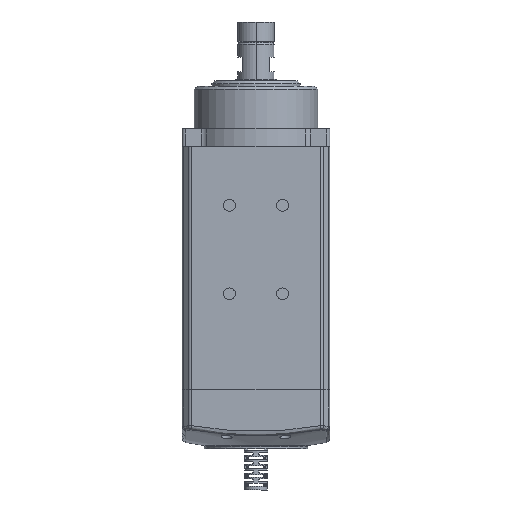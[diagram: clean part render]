
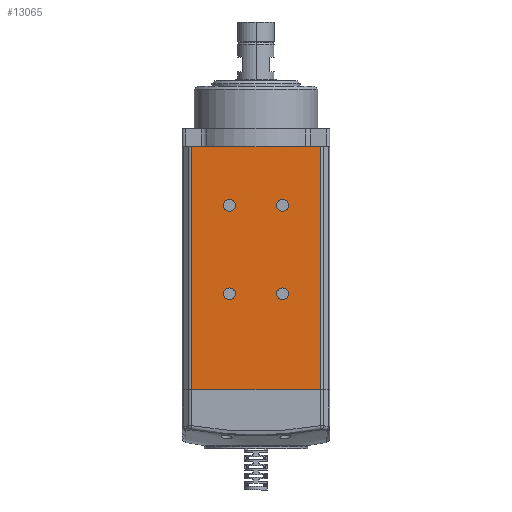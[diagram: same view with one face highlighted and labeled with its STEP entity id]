
A CAD part, front view. The second image highlights one B-rep face of the part: STEP entity #13065.
In plain terms, the highlighted planar face has unit normal (0, -1, 0).
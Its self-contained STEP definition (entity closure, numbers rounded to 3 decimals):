
#149 = EDGE_CURVE ( 'NONE', #51692, #4278, #48260, .T. ) ;
#676 = DIRECTION ( 'NONE',  ( 0., -1., 0. ) ) ;
#897 = DIRECTION ( 'NONE',  ( 1., 0., 0. ) ) ;
#1423 = ORIENTED_EDGE ( 'NONE', *, *, #20663, .F. ) ;
#2474 = EDGE_CURVE ( 'NONE', #4278, #51692, #14343, .T. ) ;
#3141 = DIRECTION ( 'NONE',  ( 1., 0., 0. ) ) ;
#4244 = AXIS2_PLACEMENT_3D ( 'NONE', #31040, #25332, #19619 ) ;
#4247 = VERTEX_POINT ( 'NONE', #43424 ) ;
#4278 = VERTEX_POINT ( 'NONE', #19228 ) ;
#4361 = CARTESIAN_POINT ( 'NONE',  ( -14., -60., -100. ) ) ;
#4536 = EDGE_LOOP ( 'NONE', ( #15222, #9635 ) ) ;
#5283 = DIRECTION ( 'NONE',  ( 0., -1., 0. ) ) ;
#5392 = DIRECTION ( 'NONE',  ( 0., 0., 1. ) ) ;
#5437 = PLANE ( 'NONE',  #18087 ) ;
#6191 = CARTESIAN_POINT ( 'NONE',  ( -18., -60., -100. ) ) ;
#6438 = CARTESIAN_POINT ( 'NONE',  ( 18., -60., -100. ) ) ;
#6642 = CARTESIAN_POINT ( 'NONE',  ( 0., -60., -165. ) ) ;
#8348 = DIRECTION ( 'NONE',  ( 0., 0., 1. ) ) ;
#8849 = CARTESIAN_POINT ( 'NONE',  ( 0., -60., 0. ) ) ;
#9635 = ORIENTED_EDGE ( 'NONE', *, *, #149, .F. ) ;
#9775 = DIRECTION ( 'NONE',  ( 1., 0., 0. ) ) ;
#10525 = EDGE_CURVE ( 'NONE', #19449, #23734, #42077, .T. ) ;
#10712 = AXIS2_PLACEMENT_3D ( 'NONE', #36323, #24873, #19155 ) ;
#11081 = CARTESIAN_POINT ( 'NONE',  ( -43.757, -60., -165. ) ) ;
#11259 = FACE_OUTER_BOUND ( 'NONE', #47182, .T. ) ;
#11549 = FACE_BOUND ( 'NONE', #40165, .T. ) ;
#11663 = FACE_BOUND ( 'NONE', #28708, .T. ) ;
#11941 = ORIENTED_EDGE ( 'NONE', *, *, #22017, .F. ) ;
#12337 = LINE ( 'NONE', #6642, #52186 ) ;
#12995 = FACE_BOUND ( 'NONE', #53180, .T. ) ;
#13065 = ADVANCED_FACE ( 'NONE', ( #12995, #14141, #11663, #11549, #11259 ), #5437, .T. ) ;
#13083 = VERTEX_POINT ( 'NONE', #31283 ) ;
#13721 = CIRCLE ( 'NONE', #48435, 4. ) ;
#14059 = CARTESIAN_POINT ( 'NONE',  ( 43.757, -60., -165. ) ) ;
#14141 = FACE_BOUND ( 'NONE', #4536, .T. ) ;
#14278 = CIRCLE ( 'NONE', #16939, 4. ) ;
#14343 = CIRCLE ( 'NONE', #44272, 4. ) ;
#14384 = DIRECTION ( 'NONE',  ( 1., 0., 0. ) ) ;
#15222 = ORIENTED_EDGE ( 'NONE', *, *, #2474, .F. ) ;
#15490 = DIRECTION ( 'NONE',  ( 0., -1., 0. ) ) ;
#15698 = VECTOR ( 'NONE', #3141, 1000. ) ;
#15911 = LINE ( 'NONE', #8849, #15698 ) ;
#16698 = CARTESIAN_POINT ( 'NONE',  ( 18., -60., -40. ) ) ;
#16768 = ORIENTED_EDGE ( 'NONE', *, *, #10525, .F. ) ;
#16806 = LINE ( 'NONE', #11081, #25036 ) ;
#16939 = AXIS2_PLACEMENT_3D ( 'NONE', #25804, #20102, #14384 ) ;
#17062 = EDGE_CURVE ( 'NONE', #40688, #36296, #48685, .T. ) ;
#17977 = EDGE_CURVE ( 'NONE', #40574, #4247, #16806, .T. ) ;
#18087 = AXIS2_PLACEMENT_3D ( 'NONE', #21203, #15490, #9775 ) ;
#19155 = DIRECTION ( 'NONE',  ( 1., 0., 0. ) ) ;
#19228 = CARTESIAN_POINT ( 'NONE',  ( 22., -60., -100. ) ) ;
#19449 = VERTEX_POINT ( 'NONE', #38284 ) ;
#19523 = ORIENTED_EDGE ( 'NONE', *, *, #25988, .T. ) ;
#19619 = DIRECTION ( 'NONE',  ( -1., 0., 0. ) ) ;
#19776 = LINE ( 'NONE', #14059, #49096 ) ;
#20102 = DIRECTION ( 'NONE',  ( 0., -1., 0. ) ) ;
#20663 = EDGE_CURVE ( 'NONE', #4247, #45929, #15911, .T. ) ;
#21203 = CARTESIAN_POINT ( 'NONE',  ( 0., -60., -165. ) ) ;
#22017 = EDGE_CURVE ( 'NONE', #39811, #53273, #24333, .T. ) ;
#22116 = CARTESIAN_POINT ( 'NONE',  ( -18., -60., -40. ) ) ;
#23734 = VERTEX_POINT ( 'NONE', #24659 ) ;
#23758 = EDGE_CURVE ( 'NONE', #53273, #39811, #46148, .T. ) ;
#24333 = CIRCLE ( 'NONE', #10712, 4. ) ;
#24659 = CARTESIAN_POINT ( 'NONE',  ( -22., -60., -40. ) ) ;
#24704 = ORIENTED_EDGE ( 'NONE', *, *, #17977, .F. ) ;
#24768 = CARTESIAN_POINT ( 'NONE',  ( 43.757, -60., 0. ) ) ;
#24873 = DIRECTION ( 'NONE',  ( 0., -1., 0. ) ) ;
#25020 = CARTESIAN_POINT ( 'NONE',  ( -22., -60., -100. ) ) ;
#25036 = VECTOR ( 'NONE', #5392, 1000. ) ;
#25332 = DIRECTION ( 'NONE',  ( 0., -1., 0. ) ) ;
#25804 = CARTESIAN_POINT ( 'NONE',  ( -18., -60., -40. ) ) ;
#25988 = EDGE_CURVE ( 'NONE', #13083, #45929, #19776, .T. ) ;
#26308 = EDGE_CURVE ( 'NONE', #40574, #13083, #12337, .T. ) ;
#27544 = AXIS2_PLACEMENT_3D ( 'NONE', #22116, #37934, #32194 ) ;
#28708 = EDGE_LOOP ( 'NONE', ( #11941, #47517 ) ) ;
#31040 = CARTESIAN_POINT ( 'NONE',  ( 18., -60., -100. ) ) ;
#31283 = CARTESIAN_POINT ( 'NONE',  ( 43.757, -60., -165. ) ) ;
#31458 = CARTESIAN_POINT ( 'NONE',  ( -43.757, -60., -165. ) ) ;
#31835 = EDGE_CURVE ( 'NONE', #36296, #40688, #13721, .T. ) ;
#32151 = AXIS2_PLACEMENT_3D ( 'NONE', #6191, #50486, #44811 ) ;
#32194 = DIRECTION ( 'NONE',  ( 1., 0., 0. ) ) ;
#34376 = EDGE_CURVE ( 'NONE', #23734, #19449, #14278, .T. ) ;
#36176 = CARTESIAN_POINT ( 'NONE',  ( 22., -60., -40. ) ) ;
#36296 = VERTEX_POINT ( 'NONE', #46591 ) ;
#36323 = CARTESIAN_POINT ( 'NONE',  ( -18., -60., -100. ) ) ;
#37040 = ORIENTED_EDGE ( 'NONE', *, *, #17062, .F. ) ;
#37934 = DIRECTION ( 'NONE',  ( 0., -1., 0. ) ) ;
#38284 = CARTESIAN_POINT ( 'NONE',  ( -14., -60., -40. ) ) ;
#39811 = VERTEX_POINT ( 'NONE', #4361 ) ;
#40165 = EDGE_LOOP ( 'NONE', ( #16768, #55240 ) ) ;
#40574 = VERTEX_POINT ( 'NONE', #31458 ) ;
#40688 = VERTEX_POINT ( 'NONE', #36176 ) ;
#42077 = CIRCLE ( 'NONE', #27544, 4. ) ;
#42345 = ORIENTED_EDGE ( 'NONE', *, *, #31835, .F. ) ;
#42821 = DIRECTION ( 'NONE',  ( -1., 0., 0. ) ) ;
#43368 = AXIS2_PLACEMENT_3D ( 'NONE', #54187, #48500, #42821 ) ;
#43424 = CARTESIAN_POINT ( 'NONE',  ( -43.757, -60., 0. ) ) ;
#44272 = AXIS2_PLACEMENT_3D ( 'NONE', #6438, #676, #50729 ) ;
#44811 = DIRECTION ( 'NONE',  ( 1., 0., 0. ) ) ;
#45929 = VERTEX_POINT ( 'NONE', #24768 ) ;
#46148 = CIRCLE ( 'NONE', #32151, 4. ) ;
#46591 = CARTESIAN_POINT ( 'NONE',  ( 14., -60., -40. ) ) ;
#47182 = EDGE_LOOP ( 'NONE', ( #1423, #24704, #49628, #19523 ) ) ;
#47517 = ORIENTED_EDGE ( 'NONE', *, *, #23758, .F. ) ;
#48260 = CIRCLE ( 'NONE', #4244, 4. ) ;
#48435 = AXIS2_PLACEMENT_3D ( 'NONE', #16698, #5283, #55272 ) ;
#48500 = DIRECTION ( 'NONE',  ( 0., -1., 0. ) ) ;
#48685 = CIRCLE ( 'NONE', #43368, 4. ) ;
#49096 = VECTOR ( 'NONE', #8348, 1000. ) ;
#49628 = ORIENTED_EDGE ( 'NONE', *, *, #26308, .T. ) ;
#50486 = DIRECTION ( 'NONE',  ( 0., -1., 0. ) ) ;
#50729 = DIRECTION ( 'NONE',  ( -1., 0., 0. ) ) ;
#51692 = VERTEX_POINT ( 'NONE', #51770 ) ;
#51770 = CARTESIAN_POINT ( 'NONE',  ( 14., -60., -100. ) ) ;
#52186 = VECTOR ( 'NONE', #897, 1000. ) ;
#53180 = EDGE_LOOP ( 'NONE', ( #37040, #42345 ) ) ;
#53273 = VERTEX_POINT ( 'NONE', #25020 ) ;
#54187 = CARTESIAN_POINT ( 'NONE',  ( 18., -60., -40. ) ) ;
#55240 = ORIENTED_EDGE ( 'NONE', *, *, #34376, .F. ) ;
#55272 = DIRECTION ( 'NONE',  ( -1., 0., 0. ) ) ;
